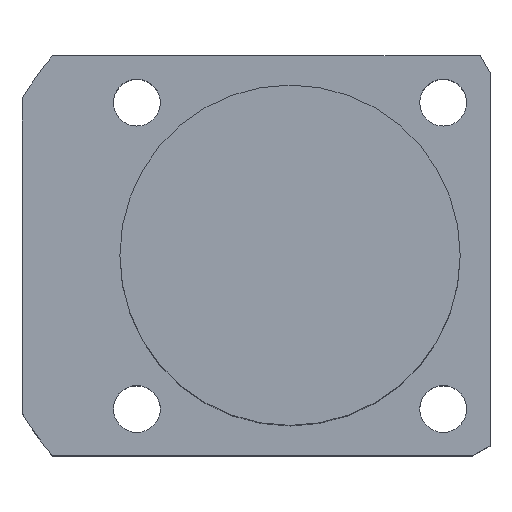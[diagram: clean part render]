
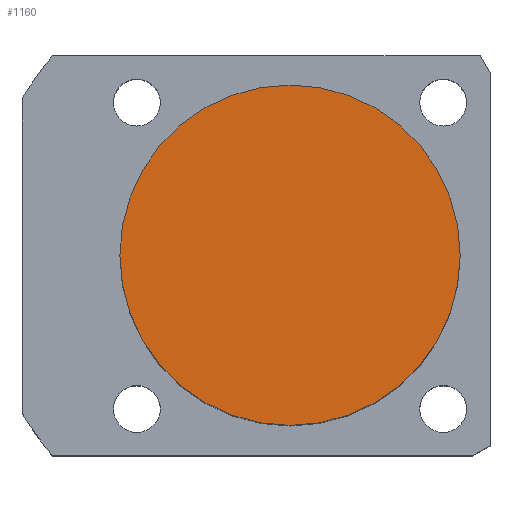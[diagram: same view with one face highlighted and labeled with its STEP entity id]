
A CAD part, top view. The second image highlights one B-rep face of the part: STEP entity #1160.
In plain terms, the highlighted planar face has unit normal (0, 0, 1).
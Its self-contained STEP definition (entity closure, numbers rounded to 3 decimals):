
#57 = EDGE_LOOP ( 'NONE', ( #1773, #1198 ) ) ;
#77 = DIRECTION ( 'NONE',  ( 1., 0., 0. ) ) ;
#223 = CARTESIAN_POINT ( 'NONE',  ( 0., 0., 51.5 ) ) ;
#257 = EDGE_CURVE ( 'NONE', #358, #359, #1448, .T. ) ;
#262 = CARTESIAN_POINT ( 'NONE',  ( -20., 0., 51.5 ) ) ;
#358 = VERTEX_POINT ( 'NONE', #262 ) ;
#359 = VERTEX_POINT ( 'NONE', #1494 ) ;
#396 = AXIS2_PLACEMENT_3D ( 'NONE', #1536, #1276, #694 ) ;
#437 = FACE_OUTER_BOUND ( 'NONE', #57, .T. ) ;
#658 = CIRCLE ( 'NONE', #396, 20. ) ;
#694 = DIRECTION ( 'NONE',  ( 1., 0., 0. ) ) ;
#914 = DIRECTION ( 'NONE',  ( 0., 0., 1. ) ) ;
#960 = AXIS2_PLACEMENT_3D ( 'NONE', #223, #914, #1725 ) ;
#975 = EDGE_CURVE ( 'NONE', #359, #358, #658, .T. ) ;
#1033 = CARTESIAN_POINT ( 'NONE',  ( 0., 0., 51.5 ) ) ;
#1160 = ADVANCED_FACE ( 'NONE', ( #437 ), #1586, .T. ) ;
#1198 = ORIENTED_EDGE ( 'NONE', *, *, #975, .T. ) ;
#1276 = DIRECTION ( 'NONE',  ( 0., 0., 1. ) ) ;
#1448 = CIRCLE ( 'NONE', #1480, 20. ) ;
#1480 = AXIS2_PLACEMENT_3D ( 'NONE', #1033, #1730, #77 ) ;
#1494 = CARTESIAN_POINT ( 'NONE',  ( 20., 0., 51.5 ) ) ;
#1536 = CARTESIAN_POINT ( 'NONE',  ( 0., 0., 51.5 ) ) ;
#1586 = PLANE ( 'NONE',  #960 ) ;
#1725 = DIRECTION ( 'NONE',  ( 1., 0., 0. ) ) ;
#1730 = DIRECTION ( 'NONE',  ( 0., 0., 1. ) ) ;
#1773 = ORIENTED_EDGE ( 'NONE', *, *, #257, .T. ) ;
